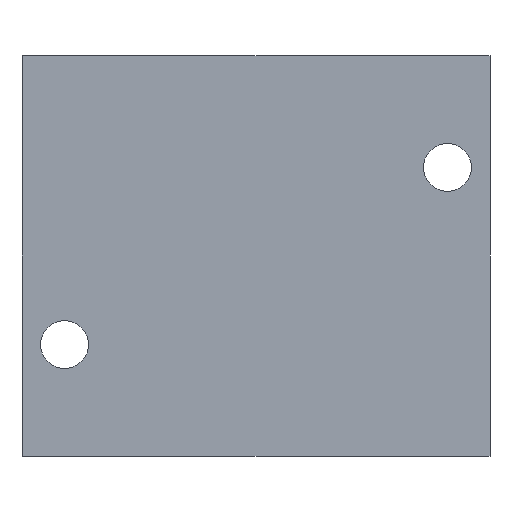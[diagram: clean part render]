
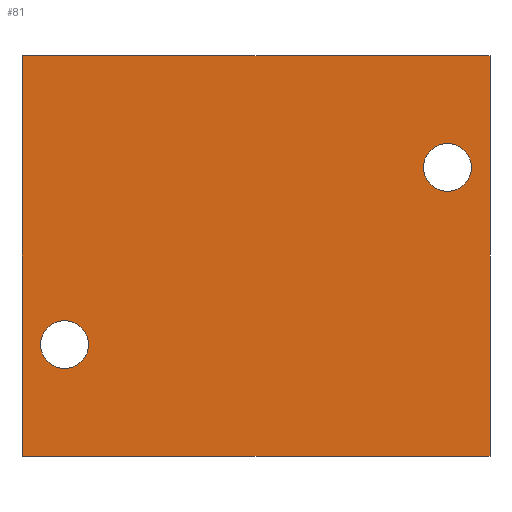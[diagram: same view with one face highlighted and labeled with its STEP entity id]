
A CAD part, front view. The second image highlights one B-rep face of the part: STEP entity #81.
In plain terms, the highlighted planar face has unit normal (0, -1, 0).
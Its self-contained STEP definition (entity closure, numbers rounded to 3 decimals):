
#81=ADVANCED_FACE('',(#187,#188,#189),#190,.T.);
#187=FACE_BOUND('',#439,.T.);
#188=FACE_BOUND('',#440,.T.);
#189=FACE_OUTER_BOUND('',#441,.T.);
#190=PLANE('',#442);
#439=EDGE_LOOP('',(#706));
#440=EDGE_LOOP('',(#707));
#441=EDGE_LOOP('',(#708,#709,#710,#711));
#442=AXIS2_PLACEMENT_3D('',#712,#713,#714);
#706=ORIENTED_EDGE('',*,*,#1263,.T.);
#707=ORIENTED_EDGE('',*,*,#1264,.T.);
#708=ORIENTED_EDGE('',*,*,#1265,.F.);
#709=ORIENTED_EDGE('',*,*,#1266,.F.);
#710=ORIENTED_EDGE('',*,*,#1267,.T.);
#711=ORIENTED_EDGE('',*,*,#1268,.T.);
#712=CARTESIAN_POINT('',(66.0,-50.0,56.5));
#713=DIRECTION('',(0.0,-1.0,0.0));
#714=DIRECTION('',(1.0,0.0,0.0));
#1263=EDGE_CURVE('',#1430,#1430,#1431,.T.);
#1264=EDGE_CURVE('',#1432,#1432,#1433,.T.);
#1265=EDGE_CURVE('',#1434,#1435,#1436,.T.);
#1266=EDGE_CURVE('',#1437,#1434,#1438,.T.);
#1267=EDGE_CURVE('',#1437,#1439,#1440,.T.);
#1268=EDGE_CURVE('',#1439,#1435,#1441,.T.);
#1430=VERTEX_POINT('',#1733);
#1431=CIRCLE('',#1734,6.75);
#1432=VERTEX_POINT('',#1735);
#1433=CIRCLE('',#1736,6.75);
#1434=VERTEX_POINT('',#1737);
#1435=VERTEX_POINT('',#1738);
#1436=LINE('',#1739,#1740);
#1437=VERTEX_POINT('',#1741);
#1438=LINE('',#1742,#1743);
#1439=VERTEX_POINT('',#1744);
#1440=LINE('',#1745,#1746);
#1441=LINE('',#1747,#1748);
#1733=CARTESIAN_POINT('',(54.0,-50.0,31.75));
#1734=AXIS2_PLACEMENT_3D('',#2068,#2069,#2070);
#1735=CARTESIAN_POINT('',(-54.0,-50.0,-31.75));
#1736=AXIS2_PLACEMENT_3D('',#2071,#2072,#2073);
#1737=CARTESIAN_POINT('',(66.0,-50.0,-56.5));
#1738=CARTESIAN_POINT('',(-66.0,-50.0,-56.5));
#1739=CARTESIAN_POINT('',(66.0,-50.0,-56.5));
#1740=VECTOR('',#2074,1.0);
#1741=CARTESIAN_POINT('',(66.0,-50.0,56.5));
#1742=CARTESIAN_POINT('',(66.0,-50.0,56.5));
#1743=VECTOR('',#2075,1.0);
#1744=CARTESIAN_POINT('',(-66.0,-50.0,56.5));
#1745=CARTESIAN_POINT('',(66.0,-50.0,56.5));
#1746=VECTOR('',#2076,1.0);
#1747=CARTESIAN_POINT('',(-66.0,-50.0,56.5));
#1748=VECTOR('',#2077,1.0);
#2068=CARTESIAN_POINT('',(54.0,-50.0,25.0));
#2069=DIRECTION('',(0.0,1.0,0.0));
#2070=DIRECTION('',(0.,0.0,1.0));
#2071=CARTESIAN_POINT('',(-54.0,-50.0,-25.0));
#2072=DIRECTION('',(0.0,1.0,0.0));
#2073=DIRECTION('',(0.0,0.0,-1.0));
#2074=DIRECTION('',(-1.0,0.0,0.0));
#2075=DIRECTION('',(0.0,0.0,-1.0));
#2076=DIRECTION('',(-1.0,0.0,0.0));
#2077=DIRECTION('',(0.0,0.0,-1.0));
